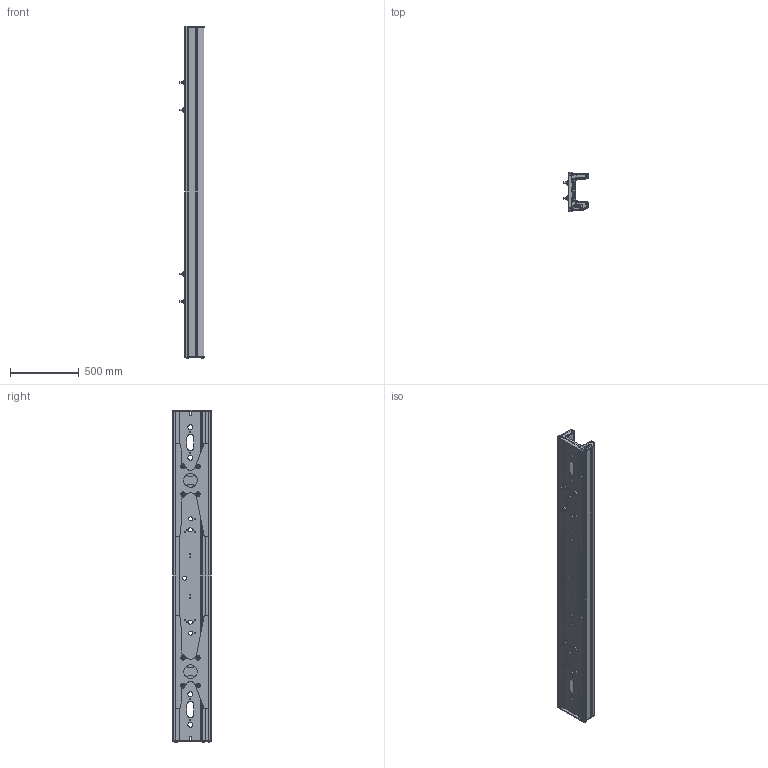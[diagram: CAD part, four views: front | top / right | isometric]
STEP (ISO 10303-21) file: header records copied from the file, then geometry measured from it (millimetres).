
FILE_DESCRIPTION(('CATIA V5 STEP Exchange','CAx-IF Rec.Pracs.--- Model Styling and Organization---1.5--- 2016-08-15','CAx-IF Rec.Pracs.---Supplemental Geometry---1.0---2011-11-01','CAx-IF Rec.Pracs.--- Composite Materials ---1.1---2010-07-15'),'2;1');
FILE_NAME('L:\Florian\data\For Melten\340384-01.stp','2024-01-10T13:18:01+00:00',('none'),('none'),'CATIA Version 5-6 Release 2020 SP3 HF39','CATIA V5 STEP AP203 Edition 2 v2','none');
FILE_SCHEMA(('AP203_CONFIGURATION_CONTROLLED_3D_DESIGN_OF_MECHANICAL_PARTS_AND_ASSEMBLIES_MIM_LF { 1 0 10303 403 3 1 4}'));
Products named in the file (1): 340384-01
Bounding box: 177 x 283.4 x 2412.4 mm (x, y, z)
Volume: 13542909.7 mm3; surface area: 5340198.6 mm2
Topology: 3 solids, 9 shells, 2196 faces, 6028 edges, 3946 vertices
Faces by surface type: cylinder 1054, plane 562, cone 298, torus 182, extrusion 72, bspline 28
Entity records: 76181 total; most frequent: CARTESIAN_POINT 23882, ORIENTED_EDGE 12024, DIRECTION 8543, EDGE_CURVE 6012, AXIS2_PLACEMENT_3D 4199, VERTEX_POINT 3946, EDGE_LOOP 2394, VECTOR 2389
